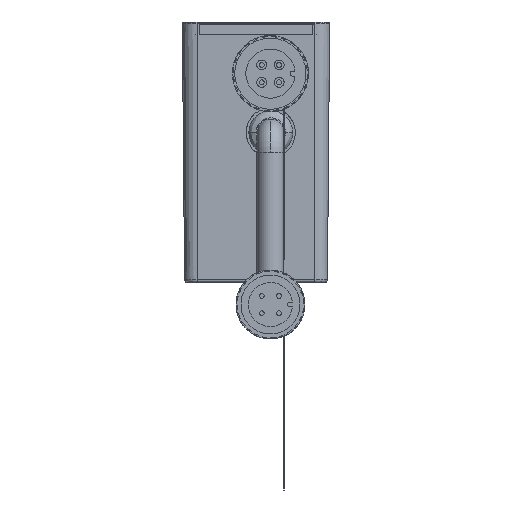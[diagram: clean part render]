
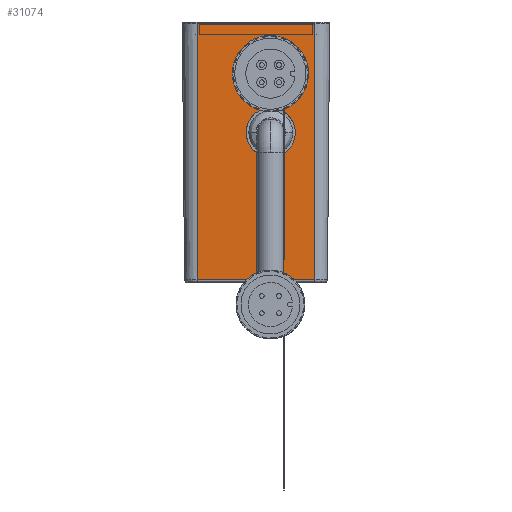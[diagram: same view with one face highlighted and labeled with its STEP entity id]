
A CAD part, left-side view. The second image highlights one B-rep face of the part: STEP entity #31074.
In plain terms, the highlighted planar face has unit normal (-1, 0, -0.009).
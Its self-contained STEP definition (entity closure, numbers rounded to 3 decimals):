
#1823 = CARTESIAN_POINT ( 'NONE',  ( -94.76, 12.5, -27.1 ) ) ;
#8960 = CARTESIAN_POINT ( 'NONE',  ( -94.76, 12.5, -27.1 ) ) ;
#9640 = ORIENTED_EDGE ( 'NONE', *, *, #50774, .T. ) ;
#15083 = CARTESIAN_POINT ( 'NONE',  ( -94.847, 22.5, -17.1 ) ) ;
#18611 = EDGE_CURVE ( 'NONE', #75035, #151070, #121082, .T. ) ;
#20942 = CARTESIAN_POINT ( 'NONE',  ( -94.76, 12.5, -27.1 ) ) ;
#21794 = EDGE_CURVE ( 'NONE', #58334, #158140, #26878, .T. ) ;
#22721 = VECTOR ( 'NONE', #62067, 1000. ) ;
#24462 = DIRECTION ( 'NONE',  ( -0.009, 0., 1. ) ) ;
#26878 = LINE ( 'NONE', #48846, #22721 ) ;
#31045 = CARTESIAN_POINT ( 'NONE',  ( -94.865, 12.563, -15.1 ) ) ;
#31074 = ADVANCED_FACE ( 'NONE', ( #92612, #61568, #131864 ), #38010, .T. ) ;
#33469 = LINE ( 'NONE', #164648, #64353 ) ;
#36617 = ORIENTED_EDGE ( 'NONE', *, *, #60185, .T. ) ;
#38010 = PLANE ( 'NONE',  #99531 ) ;
#42914 = CARTESIAN_POINT ( 'NONE',  ( -94.952, 22.563, -5.1 ) ) ;
#46072 = VERTEX_POINT ( 'NONE', #55017 ) ;
#48846 = CARTESIAN_POINT ( 'NONE',  ( -95., 3.5, 0.4 ) ) ;
#50774 = EDGE_CURVE ( 'NONE', #133745, #58334, #33469, .T. ) ;
#51212 = DIRECTION ( 'NONE',  ( 0.009, 0., -1. ) ) ;
#53492 = ORIENTED_EDGE ( 'NONE', *, *, #18611, .T. ) ;
#53942 = ORIENTED_EDGE ( 'NONE', *, *, #145529, .T. ) ;
#55017 = CARTESIAN_POINT ( 'NONE',  ( -94.865, 12.563, -15.1 ) ) ;
#58334 = VERTEX_POINT ( 'NONE', #117354 ) ;
#60181 = EDGE_LOOP ( 'NONE', ( #99557, #9640, #87402, #53942 ) ) ;
#60185 = EDGE_CURVE ( 'NONE', #151070, #75035, #85305, .T. ) ;
#61568 = FACE_BOUND ( 'NONE', #143938, .T. ) ;
#62067 = DIRECTION ( 'NONE',  ( -0.009, 0., 1. ) ) ;
#64353 = VECTOR ( 'NONE', #124186, 1000. ) ;
#66531 = VECTOR ( 'NONE', #24462, 1000. ) ;
#72381 = EDGE_LOOP ( 'NONE', ( #36617, #53492 ) ) ;
#74692 = CARTESIAN_POINT ( 'NONE',  ( -94.76, 2.5, -27.1 ) ) ;
#75035 = VERTEX_POINT ( 'NONE', #99524 ) ;
#77205 = DIRECTION ( 'NONE',  ( 0., 1., 0. ) ) ;
#80824 = CARTESIAN_POINT ( 'NONE',  ( -94.76, 22.5, -27.1 ) ) ;
#85305 =( BOUNDED_CURVE ( )  B_SPLINE_CURVE ( 3, ( #1823, #80824, #15083, #107430 ),
 .UNSPECIFIED., .F., .F. ) 
 B_SPLINE_CURVE_WITH_KNOTS ( ( 4, 4 ),
 ( 3.142, 6.283 ),
 .UNSPECIFIED. ) 
 CURVE ( )  GEOMETRIC_REPRESENTATION_ITEM ( )  RATIONAL_B_SPLINE_CURVE ( ( 1., 0.333, 0.333, 1. ) ) 
 REPRESENTATION_ITEM ( '' )  );
#87402 = ORIENTED_EDGE ( 'NONE', *, *, #21794, .T. ) ;
#90483 = CARTESIAN_POINT ( 'NONE',  ( -94.997, 30.5, 0.097 ) ) ;
#90732 = EDGE_CURVE ( 'NONE', #133745, #142366, #110029, .T. ) ;
#92612 = FACE_OUTER_BOUND ( 'NONE', #60181, .T. ) ;
#94114 = CARTESIAN_POINT ( 'NONE',  ( -94.952, 12.563, -5.1 ) ) ;
#95397 = CARTESIAN_POINT ( 'NONE',  ( -94.865, 22.563, -15.1 ) ) ;
#96517 = LINE ( 'NONE', #90483, #162731 ) ;
#96801 = CARTESIAN_POINT ( 'NONE',  ( -94.952, 12.563, -5.1 ) ) ;
#99524 = CARTESIAN_POINT ( 'NONE',  ( -94.847, 12.5, -17.1 ) ) ;
#99531 = AXIS2_PLACEMENT_3D ( 'NONE', #169700, #130320, #51212 ) ;
#99557 = ORIENTED_EDGE ( 'NONE', *, *, #90732, .F. ) ;
#107430 = CARTESIAN_POINT ( 'NONE',  ( -94.847, 12.5, -17.1 ) ) ;
#108413 = CARTESIAN_POINT ( 'NONE',  ( -94.997, 27.5, 0.097 ) ) ;
#108724 = CARTESIAN_POINT ( 'NONE',  ( -94.865, 12.563, -15.1 ) ) ;
#110029 = LINE ( 'NONE', #156742, #66531 ) ;
#110135 = CARTESIAN_POINT ( 'NONE',  ( -94.865, 2.563, -15.1 ) ) ;
#115132 = ORIENTED_EDGE ( 'NONE', *, *, #153878, .T. ) ;
#117354 = CARTESIAN_POINT ( 'NONE',  ( -94.542, 3.5, -52.104 ) ) ;
#120088 = CARTESIAN_POINT ( 'NONE',  ( -94.542, 27.5, -52.104 ) ) ;
#121082 =( BOUNDED_CURVE ( )  B_SPLINE_CURVE ( 3, ( #153853, #167195, #74692, #8960 ),
 .UNSPECIFIED., .F., .F. ) 
 B_SPLINE_CURVE_WITH_KNOTS ( ( 4, 4 ),
 ( 0., 3.142 ),
 .UNSPECIFIED. ) 
 CURVE ( )  GEOMETRIC_REPRESENTATION_ITEM ( )  RATIONAL_B_SPLINE_CURVE ( ( 1., 0.333, 0.333, 1. ) ) 
 REPRESENTATION_ITEM ( '' )  );
#122826 = CARTESIAN_POINT ( 'NONE',  ( -94.952, 2.563, -5.1 ) ) ;
#123666 =( BOUNDED_CURVE ( )  B_SPLINE_CURVE ( 3, ( #96801, #122826, #110135, #31045 ),
 .UNSPECIFIED., .F., .F. ) 
 B_SPLINE_CURVE_WITH_KNOTS ( ( 4, 4 ),
 ( 0., 3.142 ),
 .UNSPECIFIED. ) 
 CURVE ( )  GEOMETRIC_REPRESENTATION_ITEM ( )  RATIONAL_B_SPLINE_CURVE ( ( 1., 0.333, 0.333, 1. ) ) 
 REPRESENTATION_ITEM ( '' )  );
#124186 = DIRECTION ( 'NONE',  ( 0., -1., 0. ) ) ;
#129620 = ORIENTED_EDGE ( 'NONE', *, *, #143692, .T. ) ;
#130320 = DIRECTION ( 'NONE',  ( -1., 0., -0.009 ) ) ;
#131864 = FACE_BOUND ( 'NONE', #72381, .T. ) ;
#133745 = VERTEX_POINT ( 'NONE', #120088 ) ;
#135237 = CARTESIAN_POINT ( 'NONE',  ( -94.952, 12.563, -5.1 ) ) ;
#142366 = VERTEX_POINT ( 'NONE', #108413 ) ;
#143279 = VERTEX_POINT ( 'NONE', #94114 ) ;
#143692 = EDGE_CURVE ( 'NONE', #143279, #46072, #123666, .T. ) ;
#143938 = EDGE_LOOP ( 'NONE', ( #115132, #129620 ) ) ;
#145529 = EDGE_CURVE ( 'NONE', #158140, #142366, #96517, .T. ) ;
#151070 = VERTEX_POINT ( 'NONE', #20942 ) ;
#151949 = CARTESIAN_POINT ( 'NONE',  ( -94.997, 3.5, 0.097 ) ) ;
#153853 = CARTESIAN_POINT ( 'NONE',  ( -94.847, 12.5, -17.1 ) ) ;
#153878 = EDGE_CURVE ( 'NONE', #46072, #143279, #166953, .T. ) ;
#156742 = CARTESIAN_POINT ( 'NONE',  ( -4449.707, 27.5, 499000.4 ) ) ;
#158140 = VERTEX_POINT ( 'NONE', #151949 ) ;
#162731 = VECTOR ( 'NONE', #77205, 1000. ) ;
#164648 = CARTESIAN_POINT ( 'NONE',  ( -94.542, 30.5, -52.104 ) ) ;
#166953 =( BOUNDED_CURVE ( )  B_SPLINE_CURVE ( 3, ( #108724, #95397, #42914, #135237 ),
 .UNSPECIFIED., .F., .F. ) 
 B_SPLINE_CURVE_WITH_KNOTS ( ( 4, 4 ),
 ( 3.142, 6.283 ),
 .UNSPECIFIED. ) 
 CURVE ( )  GEOMETRIC_REPRESENTATION_ITEM ( )  RATIONAL_B_SPLINE_CURVE ( ( 1., 0.333, 0.333, 1. ) ) 
 REPRESENTATION_ITEM ( '' )  );
#167195 = CARTESIAN_POINT ( 'NONE',  ( -94.847, 2.5, -17.1 ) ) ;
#169700 = CARTESIAN_POINT ( 'NONE',  ( -95., 30.5, 0.4 ) ) ;
